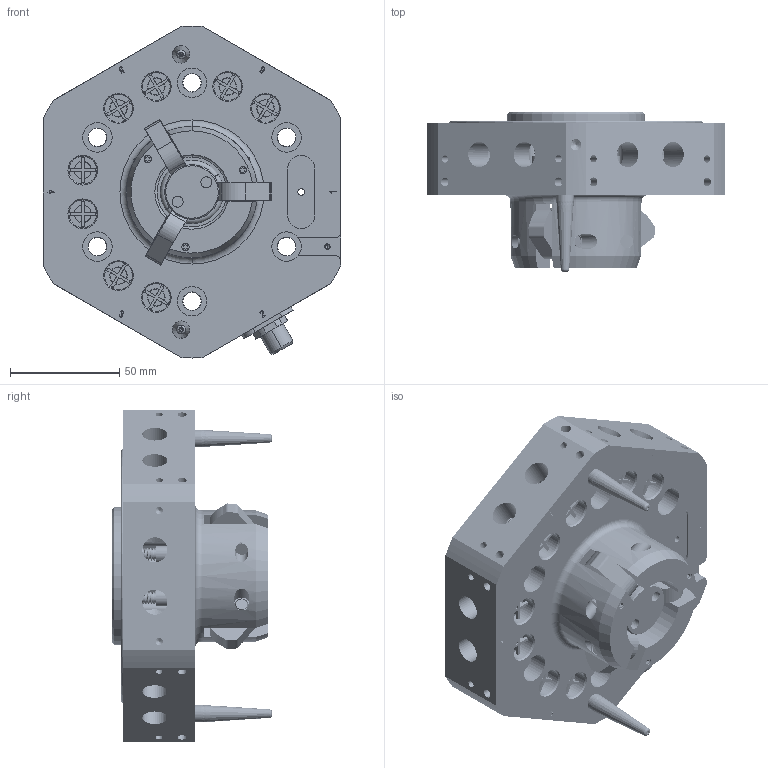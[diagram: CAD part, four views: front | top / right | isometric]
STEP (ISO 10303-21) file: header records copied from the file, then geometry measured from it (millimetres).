
FILE_DESCRIPTION (( 'STEP AP214' ), '1' );
FILE_NAME ('1700071A REV 00.STEP', '2018-12-10T14:13:19', ( 'Any Employee' ), ( 'Applied Robotics Inc.' ), 'SwSTEP 2.0', 'SolidWorks 2019', '' );
FILE_SCHEMA (( 'AUTOMOTIVE_DESIGN' ));
Length unit declared in the file: millimetre
Products named in the file (32): 1502-C61N; 97501-P1047; 48427; 1603-C38A; 48030; 1700036M; 48012; 48008; 1506-C53N; 49628_90967A120; 1700034A; 97500-B1028; 86555-p1021; 48425; 1601-D27A; 90511-P1030_Default<As Machined>; 1507-P01N; 1506-D51N; 0601-P58N; 97501-P1084; 1506-C54N; 1506-C55N; 1700071A REV 00; 96510-B1092; 89503-P1052; 1506-C57N; 97501-P1046; 48414; 1506-C52N; 91502-P1060; 0407-P80N
Assembly tree (95 placements, depth 4):
  1700071A REV 00
    1601-D27A
      1506-D51N
      1506-C52N
      1506-C53N
      1506-C54N
      1502-C61N  x3
      97500-B1028  x3
      96510-B1092  x2
      48427  x5
      48425  x3
      89503-P1052  x9
      48030  x2
      90511-P1030_Default<As Machined>
      97501-P1046
      48012  x8
      0601-P58N
      91502-P1060
      49628_90967A120
      1603-C38A
        1506-C55N
        97501-P1047
        89503-P1052
        86555-p1021
      1603-C38A
        1506-C55N
        97501-P1047
        89503-P1052
        86555-p1021
    1700034A
      1506-C57N
      1700036M
      1507-P01N  x2
      48414  x2
      48012  x4
      48008  x2
      97501-P1084  x2
      0407-P80N
    1506-C55N  x8
    97501-P1047  x8
    86555-p1021  x8
Bounding box: 136 x 73.02 x 152 mm (x, y, z)
Volume: 498512.5 mm3; surface area: 175492.5 mm2
Topology: 91 solids, 91 shells, 2663 faces, 6396 edges, 4038 vertices
Faces by surface type: plane 1090, cylinder 798, cone 313, torus 243, bspline 219
Entity records: 70199 total; most frequent: CARTESIAN_POINT 29362, ORIENTED_EDGE 7902, DIRECTION 7855, EDGE_CURVE 3951, AXIS2_PLACEMENT_3D 2920, VERTEX_POINT 2541, LINE 2015, VECTOR 2015
